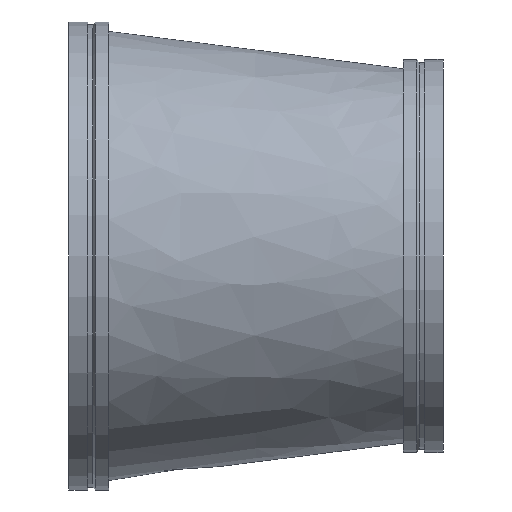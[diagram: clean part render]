
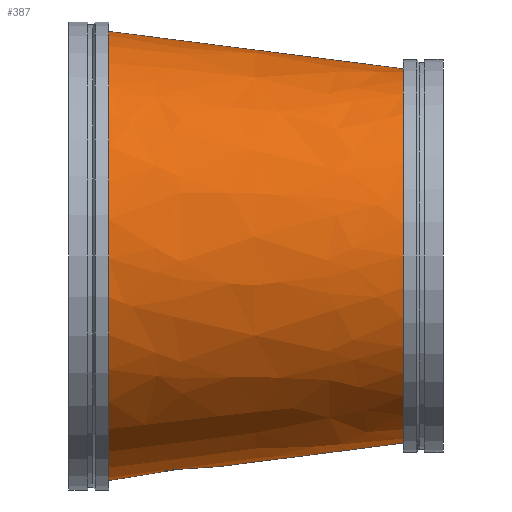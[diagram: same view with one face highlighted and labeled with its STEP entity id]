
A CAD part, front view. The second image highlights one B-rep face of the part: STEP entity #387.
In plain terms, the highlighted free-form (B-spline) face has degree [1, 2] with [2, 9] control points.
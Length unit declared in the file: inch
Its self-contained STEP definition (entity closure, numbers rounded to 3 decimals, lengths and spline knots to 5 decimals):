
#46=B_SPLINE_CURVE_WITH_KNOTS('',1,(#747,#748),.UNSPECIFIED.,.F.,.F.,(2,
2),(-1.33496,-0.00195),.UNSPECIFIED.);
#48=(
BOUNDED_SURFACE()
B_SPLINE_SURFACE(1,2,((#729,#730,#731,#732,#733,#734,#735,#736,#737),(#738,
#739,#740,#741,#742,#743,#744,#745,#746)),.UNSPECIFIED.,.F.,.T.,.F.)
B_SPLINE_SURFACE_WITH_KNOTS((2,2),(3,2,2,2,3),(-0.125,1.4375),
(-3.14159,-1.5708,0.,1.5708,3.14159),
 .UNSPECIFIED.)
GEOMETRIC_REPRESENTATION_ITEM()
RATIONAL_B_SPLINE_SURFACE(((1.,0.707,1.,0.707,1.,
0.707,1.,0.707,1.),(1.,0.707,1.,0.707,
1.,0.707,1.,0.707,1.)))
REPRESENTATION_ITEM('')
SURFACE()
);
#98=FACE_OUTER_BOUND('',#120,.T.);
#120=EDGE_LOOP('',(#321,#322,#323,#324,#325,#326));
#129=CIRCLE('',#415,20.);
#130=CIRCLE('',#416,20.);
#153=CIRCLE('',#450,24.);
#154=CIRCLE('',#451,24.);
#166=VERTEX_POINT('',#628);
#167=VERTEX_POINT('',#629);
#190=VERTEX_POINT('',#695);
#191=VERTEX_POINT('',#696);
#203=EDGE_CURVE('',#166,#167,#129,.T.);
#204=EDGE_CURVE('',#167,#166,#130,.T.);
#235=EDGE_CURVE('',#190,#191,#153,.T.);
#236=EDGE_CURVE('',#191,#190,#154,.T.);
#243=EDGE_CURVE('',#167,#191,#46,.T.);
#321=ORIENTED_EDGE('',*,*,#203,.T.);
#322=ORIENTED_EDGE('',*,*,#243,.T.);
#323=ORIENTED_EDGE('',*,*,#236,.T.);
#324=ORIENTED_EDGE('',*,*,#235,.T.);
#325=ORIENTED_EDGE('',*,*,#243,.F.);
#326=ORIENTED_EDGE('',*,*,#204,.T.);
#387=ADVANCED_FACE('',(#98),#48,.F.);
#415=AXIS2_PLACEMENT_3D('',#630,#486,#487);
#416=AXIS2_PLACEMENT_3D('',#631,#488,#489);
#450=AXIS2_PLACEMENT_3D('',#697,#564,#565);
#451=AXIS2_PLACEMENT_3D('',#698,#566,#567);
#486=DIRECTION('center_axis',(-1.,0.,0.));
#487=DIRECTION('ref_axis',(0.,-1.,0.));
#488=DIRECTION('center_axis',(-1.,0.,0.));
#489=DIRECTION('ref_axis',(0.,-1.,0.));
#564=DIRECTION('center_axis',(1.,0.,0.));
#565=DIRECTION('ref_axis',(0.,1.,0.));
#566=DIRECTION('center_axis',(1.,0.,0.));
#567=DIRECTION('ref_axis',(0.,1.,0.));
#628=CARTESIAN_POINT('',(35.75,-24.,0.));
#629=CARTESIAN_POINT('',(35.75,-4.3125,19.99756));
#630=CARTESIAN_POINT('Origin',(35.75,-4.,0.));
#631=CARTESIAN_POINT('Origin',(35.75,-4.,0.));
#695=CARTESIAN_POINT('',(4.25,24.,0.));
#696=CARTESIAN_POINT('',(4.25,-0.375,23.99707));
#697=CARTESIAN_POINT('Origin',(4.25,0.,0.));
#698=CARTESIAN_POINT('Origin',(4.25,0.,0.));
#729=CARTESIAN_POINT('Ctrl Pts',(1.25,0.,
24.37798));
#730=CARTESIAN_POINT('Ctrl Pts',(-1.75,-24.,24.37798));
#731=CARTESIAN_POINT('Ctrl Pts',(-1.75,-24.,0.));
#732=CARTESIAN_POINT('Ctrl Pts',(-1.75,-24.,-24.37798));
#733=CARTESIAN_POINT('Ctrl Pts',(1.25,0.,-24.37798));
#734=CARTESIAN_POINT('Ctrl Pts',(4.25,24.,-24.37798));
#735=CARTESIAN_POINT('Ctrl Pts',(4.25,24.,0.));
#736=CARTESIAN_POINT('Ctrl Pts',(4.25,24.,24.37798));
#737=CARTESIAN_POINT('Ctrl Pts',(1.25,0.,
24.37798));
#738=CARTESIAN_POINT('Ctrl Pts',(38.17308,-4.61538,19.6899));
#739=CARTESIAN_POINT('Ctrl Pts',(35.75,-24.,19.6899));
#740=CARTESIAN_POINT('Ctrl Pts',(35.75,-24.,0.));
#741=CARTESIAN_POINT('Ctrl Pts',(35.75,-24.,-19.6899));
#742=CARTESIAN_POINT('Ctrl Pts',(38.17308,-4.61538,-19.6899));
#743=CARTESIAN_POINT('Ctrl Pts',(40.59615,14.76923,-19.6899));
#744=CARTESIAN_POINT('Ctrl Pts',(40.59615,14.76923,0.));
#745=CARTESIAN_POINT('Ctrl Pts',(40.59615,14.76923,19.6899));
#746=CARTESIAN_POINT('Ctrl Pts',(38.17308,-4.61538,19.6899));
#747=CARTESIAN_POINT('Ctrl Pts',(35.75,-4.3125,19.99756));
#748=CARTESIAN_POINT('Ctrl Pts',(4.25,-0.375,23.99707));
